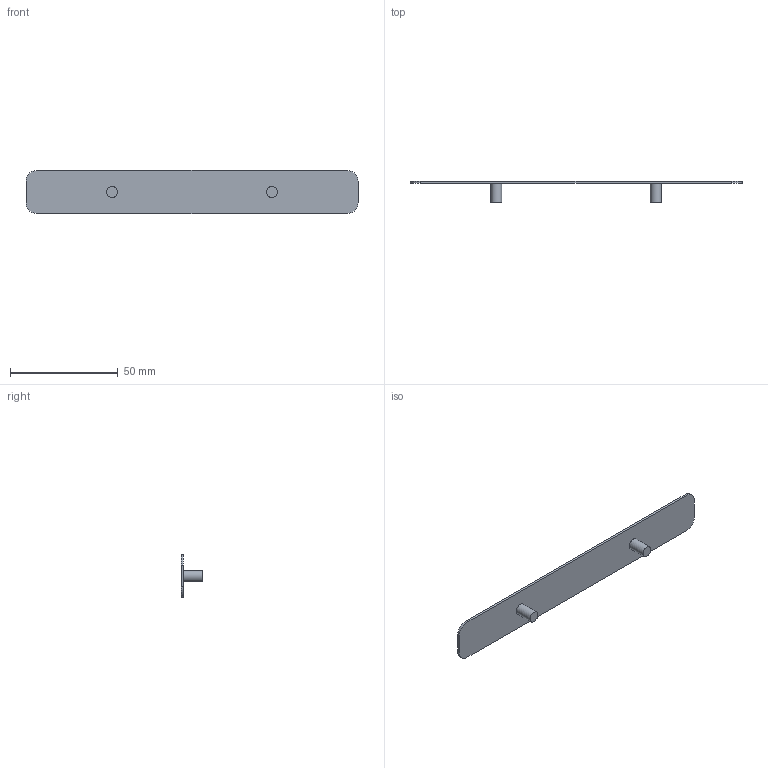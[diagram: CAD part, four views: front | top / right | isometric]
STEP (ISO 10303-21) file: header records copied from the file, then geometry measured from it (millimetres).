
FILE_DESCRIPTION(('STEP AP242 Edition 2','STEP AP242 Edition 2''CAx-IF Rec.Pracs.---Representation and Presentation of Product Manufacturing Information (PMI)---4.0---2014-10-13','STEP AP242 Edition 2''CAx-IF Rec.Pracs.---Representation and Presentation of Product Manufacturing Information (PMI)---4.0---2014-10-13''CAx-IF Rec.Pracs.---3D Tessellated Geometry---0.4---2014-09-14','STEP AP242 Edition 2''CAx-IF Rec.Pracs.---Representation and Presentation of Product Manufacturing Information (PMI)---4.0---2014-10-13''CAx-IF Rec.Pracs.---3D Tessellated Geometry---0.4---2014-09-14''2;1','STEP AP242 Edition 2''CAx-IF Rec.Pracs.---Representation and Presentation of Product Manufacturing Information (PMI)---4.0---2014-10-13''CAx-IF Rec.Pracs.---3D Tessellated Geometry---0.4---2014-09-14''2;1''CAx-IF Rec.Pracs.---User Defined Attributes---1.5---2016-08-15'),'2;1');
FILE_NAME('/vol/tmp/translate-5928582753522486027/Part Studio Body Front - Part Front Right Air Intake Front - Black.step','2026-05-02T13:02:39',(''),(''),'ST-DEVELOPER v20','ONSHAPE BY PTC INC, 1.214',' ');
FILE_SCHEMA(('AP242_MANAGED_MODEL_BASED_3D_ENGINEERING_MIM_LF { 1 0 10303 442 3 1 4 }'));
Length unit declared in the file: metre
Products named in the file (1): Part Front Right Air Intake Front - Black
Bounding box: 154.23 x 10 x 20 mm (x, y, z)
Volume: 3445.3 mm3; surface area: 6760 mm2
Topology: 1 solids, 1 shells, 14 faces, 30 edges, 20 vertices
Faces by surface type: plane 8, cylinder 6
Full cylindrical faces by diameter (mm): 5.2 x2
Entity records: 398 total; most frequent: DIRECTION 70, CARTESIAN_POINT 63, ORIENTED_EDGE 56, EDGE_CURVE 28, AXIS2_PLACEMENT_3D 27, VERTEX_POINT 20, EDGE_LOOP 18, FACE_BOUND 18
